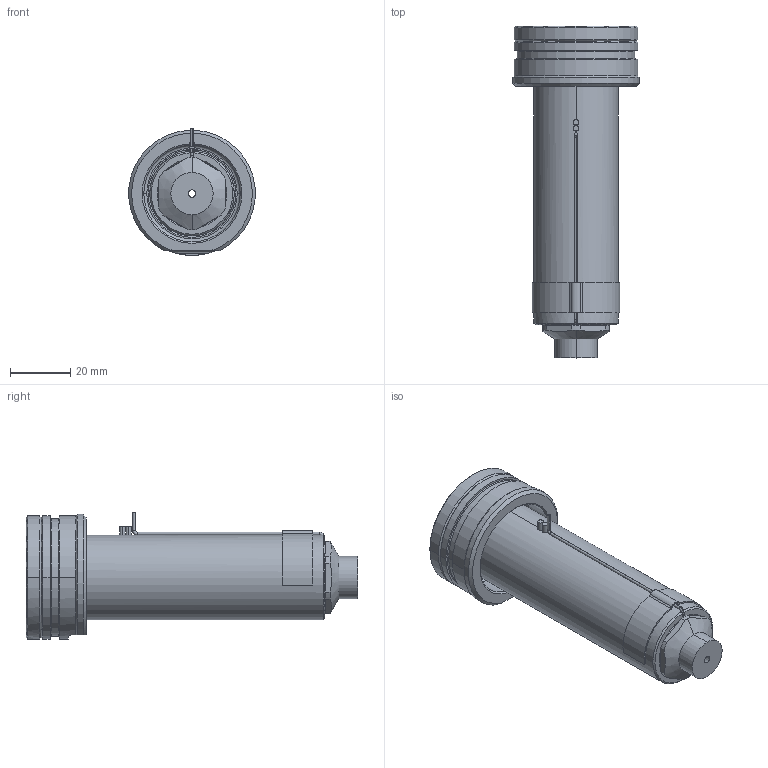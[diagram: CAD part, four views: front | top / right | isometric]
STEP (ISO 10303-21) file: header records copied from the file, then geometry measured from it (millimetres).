
FILE_DESCRIPTION((''),'2;1');
FILE_NAME('EO10_VG-FB_WR_090_SW','2024-02-19T13:35:12',('sundharh'),(''),'CREO PARAMETRIC BY PTC INC, 2023154','CREO PARAMETRIC BY PTC INC, 2023154','');
FILE_SCHEMA(('CONFIG_CONTROL_DESIGN'));
Length unit declared in the file: millimetre
Products named in the file (1): EO10_VG-FB_WR_090_SW
Bounding box: 41.85 x 110 x 42.02 mm (x, y, z)
Volume: 66961.8 mm3; surface area: 19918.2 mm2
Topology: 1 solids, 1 shells, 193 faces, 480 edges, 293 vertices
Faces by surface type: cylinder 71, plane 47, cone 37, torus 23, bspline 13, sphere 2
Entity records: 6661 total; most frequent: CARTESIAN_POINT 1979, DIRECTION 1035, ORIENTED_EDGE 956, EDGE_CURVE 478, AXIS2_PLACEMENT_3D 433, VERTEX_POINT 293, CIRCLE 253, EDGE_LOOP 209
